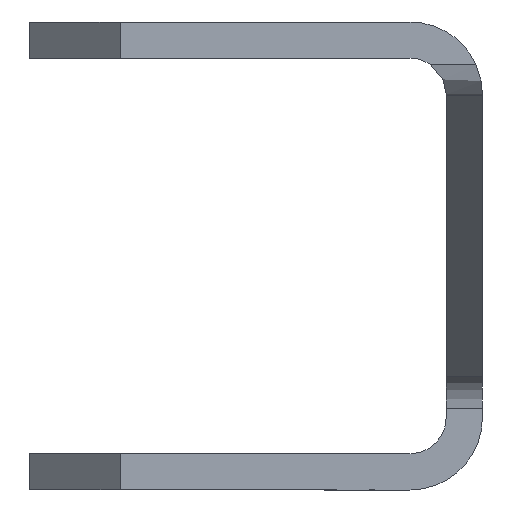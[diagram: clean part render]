
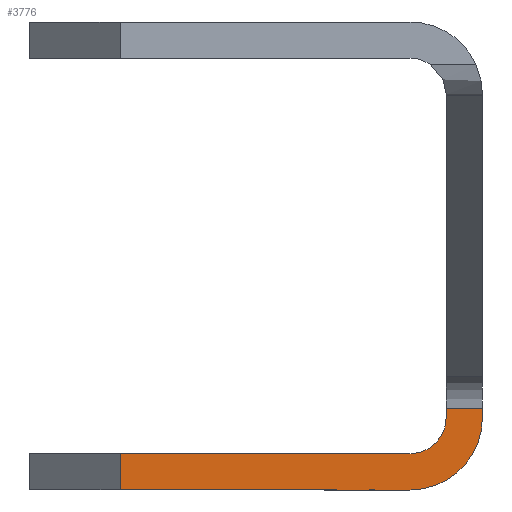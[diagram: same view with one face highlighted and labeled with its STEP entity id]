
A CAD part, left-side view. The second image highlights one B-rep face of the part: STEP entity #3776.
In plain terms, the highlighted planar face has unit normal (-1, 0, 0).
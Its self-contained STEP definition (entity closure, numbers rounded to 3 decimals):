
#520 = PLANE ( 'NONE',  #1349 ) ;
#521 = CARTESIAN_POINT ( 'NONE',  ( -437.5, 7.5, -4.35 ) ) ;
#522 = DIRECTION ( 'NONE',  ( 1., 0., 0. ) ) ;
#523 = DIRECTION ( 'NONE',  ( 0., 0., -1. ) ) ;
#1138 = VECTOR ( 'NONE', #1943, 1000. ) ;
#1152 = VECTOR ( 'NONE', #1976, 1000. ) ;
#1166 = AXIS2_PLACEMENT_3D ( 'NONE', #2077, #2076, #2075 ) ;
#1170 = VECTOR ( 'NONE', #2109, 1000. ) ;
#1232 = VECTOR ( 'NONE', #2277, 1000. ) ;
#1235 = AXIS2_PLACEMENT_3D ( 'NONE', #2286, #2285, #2284 ) ;
#1248 = VECTOR ( 'NONE', #2315, 1000. ) ;
#1249 = VECTOR ( 'NONE', #2318, 1000. ) ;
#1346 = FACE_OUTER_BOUND ( 'NONE', #2873, .T. ) ;
#1349 = AXIS2_PLACEMENT_3D ( 'NONE', #521, #522, #523 ) ;
#1484 = EDGE_CURVE ( 'NONE', #3171, #3202, #2320, .T. ) ;
#1485 = EDGE_CURVE ( 'NONE', #3182, #3156, #2317, .T. ) ;
#1491 = EDGE_CURVE ( 'NONE', #3183, #3201, #2703, .T. ) ;
#1493 = EDGE_CURVE ( 'NONE', #3202, #3201, #2279, .T. ) ;
#1549 = EDGE_CURVE ( 'NONE', #3183, #3182, #2111, .T. ) ;
#1556 = EDGE_CURVE ( 'NONE', #3155, #3172, #1682, .T. ) ;
#1562 = EDGE_CURVE ( 'NONE', #3171, #3172, #1978, .T. ) ;
#1573 = EDGE_CURVE ( 'NONE', #3156, #3155, #1945, .T. ) ;
#1682 = CIRCLE ( 'NONE', #1166, 2.4 ) ;
#1943 = DIRECTION ( 'NONE',  ( 0., -1., 0. ) ) ;
#1944 = CARTESIAN_POINT ( 'NONE',  ( -437.5, 7.5, -7.75 ) ) ;
#1945 = LINE ( 'NONE', #1944, #1138 ) ;
#1976 = DIRECTION ( 'NONE',  ( 0., 0., -1. ) ) ;
#1977 = CARTESIAN_POINT ( 'NONE',  ( -437.5, -7.5, -4.35 ) ) ;
#1978 = LINE ( 'NONE', #1977, #1152 ) ;
#2075 = DIRECTION ( 'NONE',  ( 0., 0., -1. ) ) ;
#2076 = DIRECTION ( 'NONE',  ( -1., 0., 0. ) ) ;
#2077 = CARTESIAN_POINT ( 'NONE',  ( -437.5, -5.1, -5.35 ) ) ;
#2109 = DIRECTION ( 'NONE',  ( 0., 1., 0. ) ) ;
#2110 = CARTESIAN_POINT ( 'NONE',  ( -437.5, 7.5, -6.55 ) ) ;
#2111 = LINE ( 'NONE', #2110, #1170 ) ;
#2277 = DIRECTION ( 'NONE',  ( 0., 0., -1. ) ) ;
#2278 = CARTESIAN_POINT ( 'NONE',  ( -437.5, -6.3, 7.75 ) ) ;
#2279 = LINE ( 'NONE', #2278, #1232 ) ;
#2284 = DIRECTION ( 'NONE',  ( 0., 0., -1. ) ) ;
#2285 = DIRECTION ( 'NONE',  ( -1., 0., 0. ) ) ;
#2286 = CARTESIAN_POINT ( 'NONE',  ( -437.5, -5.1, -5.35 ) ) ;
#2315 = DIRECTION ( 'NONE',  ( 0., 0., -1. ) ) ;
#2316 = CARTESIAN_POINT ( 'NONE',  ( -437.5, 4.5, -4.35 ) ) ;
#2317 = LINE ( 'NONE', #2316, #1248 ) ;
#2318 = DIRECTION ( 'NONE',  ( 0., 1., 0. ) ) ;
#2319 = CARTESIAN_POINT ( 'NONE',  ( -437.5, 7.5, -5.046 ) ) ;
#2320 = LINE ( 'NONE', #2319, #1249 ) ;
#2703 = CIRCLE ( 'NONE', #1235, 1.2 ) ;
#2873 = EDGE_LOOP ( 'NONE', ( #3543, #3542, #3546, #3540, #3541, #3539, #3537, #3536 ) ) ;
#2908 = CARTESIAN_POINT ( 'NONE',  ( -437.5, -5.1, -7.75 ) ) ;
#2919 = CARTESIAN_POINT ( 'NONE',  ( -437.5, -6.3, -5.046 ) ) ;
#2920 = CARTESIAN_POINT ( 'NONE',  ( -437.5, -6.3, -5.35 ) ) ;
#2938 = CARTESIAN_POINT ( 'NONE',  ( -437.5, -5.1, -6.55 ) ) ;
#2939 = CARTESIAN_POINT ( 'NONE',  ( -437.5, 4.5, -6.55 ) ) ;
#2949 = CARTESIAN_POINT ( 'NONE',  ( -437.5, -7.5, -5.35 ) ) ;
#2950 = CARTESIAN_POINT ( 'NONE',  ( -437.5, -7.5, -5.046 ) ) ;
#2964 = CARTESIAN_POINT ( 'NONE',  ( -437.5, 4.5, -7.75 ) ) ;
#3155 = VERTEX_POINT ( 'NONE', #2908 ) ;
#3156 = VERTEX_POINT ( 'NONE', #2964 ) ;
#3171 = VERTEX_POINT ( 'NONE', #2950 ) ;
#3172 = VERTEX_POINT ( 'NONE', #2949 ) ;
#3182 = VERTEX_POINT ( 'NONE', #2939 ) ;
#3183 = VERTEX_POINT ( 'NONE', #2938 ) ;
#3201 = VERTEX_POINT ( 'NONE', #2920 ) ;
#3202 = VERTEX_POINT ( 'NONE', #2919 ) ;
#3536 = ORIENTED_EDGE ( 'NONE', *, *, #1491, .F. ) ;
#3537 = ORIENTED_EDGE ( 'NONE', *, *, #1493, .T. ) ;
#3539 = ORIENTED_EDGE ( 'NONE', *, *, #1484, .T. ) ;
#3540 = ORIENTED_EDGE ( 'NONE', *, *, #1556, .T. ) ;
#3541 = ORIENTED_EDGE ( 'NONE', *, *, #1562, .F. ) ;
#3542 = ORIENTED_EDGE ( 'NONE', *, *, #1485, .T. ) ;
#3543 = ORIENTED_EDGE ( 'NONE', *, *, #1549, .T. ) ;
#3546 = ORIENTED_EDGE ( 'NONE', *, *, #1573, .T. ) ;
#3776 = ADVANCED_FACE ( 'NONE', ( #1346 ), #520, .F. ) ;
